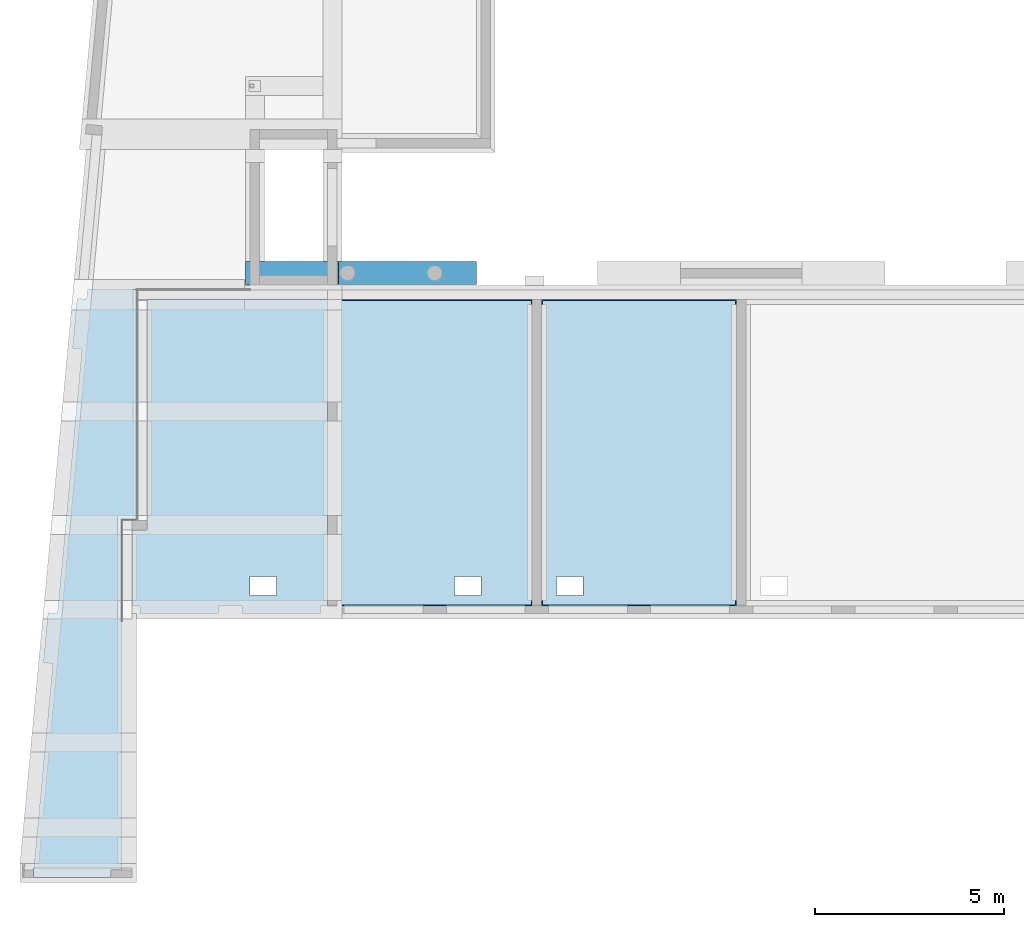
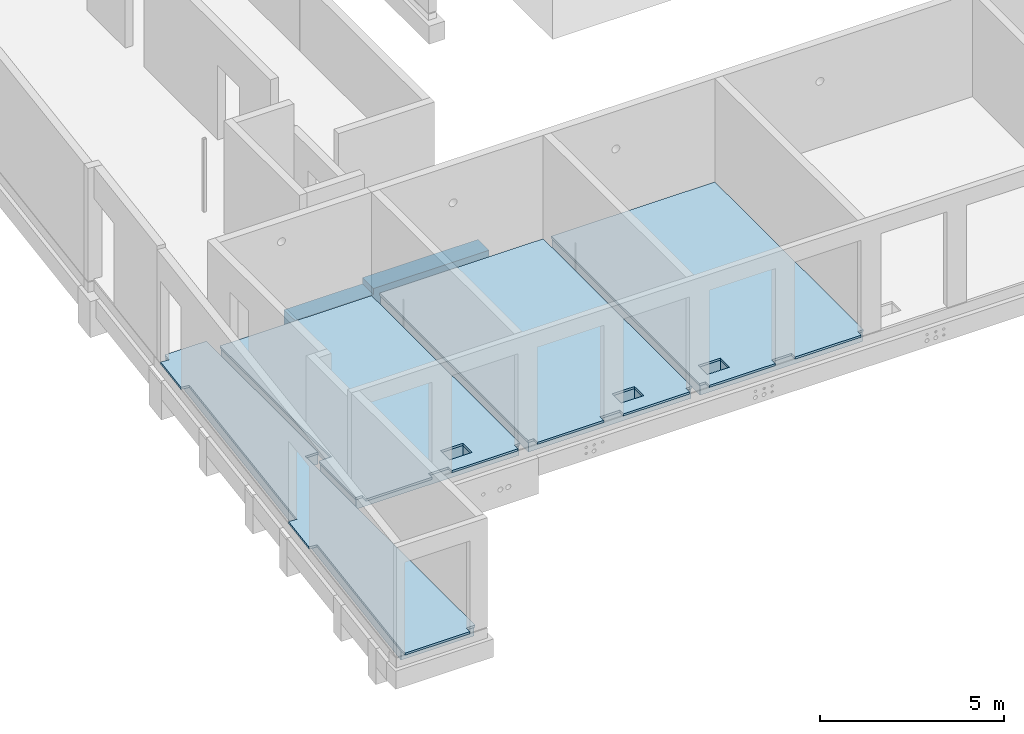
# One storey, part 20 of 60: 9 slabs, 51 openings.
"""IFC2X3 building model written with IfcOpenShell, lengths in millimetres."""

from ifc_helpers import new_model, entity, si_unit, converted_unit, derived_unit, direction, frame, frame_2d, origin, origin_2d_with_axis, place, context, subcontext, project, spatial, polyline, circle_curve, parameter, trimmed, segment, composite_curve, rectangle, outline, extrude, material, layer, layer_set, layer_usage, element, save


model = new_model("IFC2X3")

# Units and contexts
model_context = context("Model", 3, precision=0.01, world=origin(), true_north=direction((6.12303176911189e-17, 1.0)))
body_context = subcontext(model_context, "Body", "Model", "MODEL_VIEW")
ifc_project = project(units=[si_unit("LENGTHUNIT", "METRE", prefix="MILLI"), si_unit("AREAUNIT", "SQUARE_METRE"), si_unit("VOLUMEUNIT", "CUBIC_METRE"), converted_unit("PLANEANGLEUNIT", "DEGREE", entity("IfcRatioMeasure", 0.0174532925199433), si_unit("PLANEANGLEUNIT", "RADIAN"), dimensions=[0, 0, 0, 0, 0, 0, 0]), si_unit("MASSUNIT", "GRAM", prefix="KILO"), derived_unit("MASSDENSITYUNIT", [(si_unit("MASSUNIT", "GRAM", prefix="KILO"), 1), (si_unit("LENGTHUNIT", "METRE"), -3)]), si_unit("TIMEUNIT", "SECOND"), si_unit("FREQUENCYUNIT", "HERTZ"), si_unit("THERMODYNAMICTEMPERATUREUNIT", "DEGREE_CELSIUS"), derived_unit("THERMALTRANSMITTANCEUNIT", [(si_unit("MASSUNIT", "GRAM", prefix="KILO"), 1), (si_unit("THERMODYNAMICTEMPERATUREUNIT", "KELVIN"), -1), (si_unit("TIMEUNIT", "SECOND"), -3)]), derived_unit("VOLUMETRICFLOWRATEUNIT", [(si_unit("LENGTHUNIT", "METRE"), 3), (si_unit("TIMEUNIT", "SECOND"), -1)]), si_unit("ELECTRICCURRENTUNIT", "AMPERE"), si_unit("ELECTRICVOLTAGEUNIT", "VOLT"), si_unit("POWERUNIT", "WATT"), si_unit("FORCEUNIT", "NEWTON", prefix="KILO"), si_unit("ILLUMINANCEUNIT", "LUX"), si_unit("LUMINOUSFLUXUNIT", "LUMEN"), si_unit("LUMINOUSINTENSITYUNIT", "CANDELA"), derived_unit("USERDEFINED", [(si_unit("MASSUNIT", "GRAM", prefix="KILO"), -1), (si_unit("LENGTHUNIT", "METRE"), -2), (si_unit("TIMEUNIT", "SECOND"), 3), (si_unit("LUMINOUSFLUXUNIT", "LUMEN"), 1)]), derived_unit("LINEARVELOCITYUNIT", [(si_unit("LENGTHUNIT", "METRE"), 1), (si_unit("TIMEUNIT", "SECOND"), -1)]), si_unit("PRESSUREUNIT", "PASCAL"), derived_unit("USERDEFINED", [(si_unit("LENGTHUNIT", "METRE"), -2), (si_unit("MASSUNIT", "GRAM", prefix="KILO"), 1), (si_unit("TIMEUNIT", "SECOND"), -2)])], contexts=[model_context])

# Site, building, storey
site_placement = place(None, origin())
site = spatial("IfcSite", under=ifc_project, at=site_placement, Name="Default", CompositionType="ELEMENT")
building_placement = place(site_placement, origin())
building = spatial("IfcBuilding", under=site, at=building_placement, Name="niet gebruiken", CompositionType="ELEMENT")
storey_placement = place(building_placement, origin())
storey = spatial("IfcBuildingStorey", under=building, at=storey_placement, Name="00 begane grond", CompositionType="ELEMENT", Elevation=0.0)

# Slab, openings
ifc_material_1 = material(Name="NLRS_f2_beton ihwg")
ifc_layer_1 = layer(ifc_material_1, 70.0)
ifc_layer_set_1 = layer_set([ifc_layer_1], Name="Floor:NLRS_23.21_FL_druklaag d=70_gen")
ifc_layer_usage_1 = layer_usage(ifc_layer_set_1, "AXIS3", "POSITIVE", 0.0)
slab_1_placement = place(storey_placement, frame((2800.0, 200.0, -160.0)))
slab_1 = element("IfcSlab", 1, at=slab_1_placement, inside=storey, material=ifc_layer_usage_1, Name="Floor:NLRS_23.21_FL_druklaag d=70_gen", ObjectType="Floor:NLRS_23.21_FL_druklaag d=70_gen", PredefinedType="FLOOR", context=body_context, shape_type="SweptSolid", body=[
    extrude(outline(polyline([(47647.5000000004, -4148.0), (49727.5000000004, -4148.0), (49727.5000000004, -3948.0), (49937.5, -3948.0), (49937.5, -1938.0), (49537.5000000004, -1938.0), (49537.5000000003, 4148.0), (44762.5000000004, 4148.0), (44762.5000000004, -3948.0), (44947.5000000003, -3948.0), (44947.5000000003, -4148.0), (47027.5000000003, -4148.0), (47027.5000000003, -3948.0), (47647.5000000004, -3948.0), (47647.5000000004, -4148.0)])), frame((49937.5, 4148.0, 70.0), z_axis=(0.0, 0.0, -1.0), x_axis=(-1.0, 0.0, 0.0)), (0.0, 0.0, 1.0), 70.0),
])
placement_1 = place(slab_1_placement, origin())
element("IfcOpeningElement", 2, at=placement_1, cuts=slab_1, ObjectType="Opening", context=body_context, shape_type="SweptSolid", body=[
    extrude(rectangle(XDim=699.999999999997, YDim=500.000000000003, at=origin_2d_with_axis()), frame((89870.0, 725.0, -380.0), z_axis=(0.0, 0.0, 1.0), x_axis=(-1.0, 0.0, 0.0)), (0.0, 0.0, 1.0), 450.0),
])
placement_2 = place(slab_1_placement, origin())
element("IfcOpeningElement", 3, at=placement_2, cuts=slab_1, ObjectType="Opening", context=body_context, shape_type="SweptSolid", body=[
    extrude(rectangle(XDim=699.999999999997, YDim=500.000000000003, at=origin_2d_with_axis()), frame((92570.0, 725.0, -380.0), z_axis=(0.0, 0.0, 1.0), x_axis=(-1.0, 0.0, 0.0)), (0.0, 0.0, 1.0), 450.0),
])
placement_3 = place(slab_1_placement, origin())
element("IfcOpeningElement", 4, at=placement_3, cuts=slab_1, ObjectType="Opening", context=body_context, shape_type="SweptSolid", body=[
    extrude(rectangle(XDim=699.999999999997, YDim=500.000000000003, at=origin_2d_with_axis()), frame((84470.0, 725.0, -380.0), z_axis=(0.0, 0.0, 1.0), x_axis=(-1.0, 0.0, 0.0)), (0.0, 0.0, 1.0), 450.0),
])
placement_4 = place(slab_1_placement, origin())
element("IfcOpeningElement", 5, at=placement_4, cuts=slab_1, ObjectType="Opening", context=body_context, shape_type="SweptSolid", body=[
    extrude(rectangle(XDim=700.000000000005, YDim=500.000000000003, at=origin_2d_with_axis()), frame((70970.0, 725.0, -380.0), z_axis=(0.0, 0.0, 1.0), x_axis=(-1.0, 0.0, 0.0)), (0.0, 0.0, 1.0), 450.0),
])
placement_5 = place(slab_1_placement, origin())
element("IfcOpeningElement", 6, at=placement_5, cuts=slab_1, ObjectType="Opening", context=body_context, shape_type="SweptSolid", body=[
    extrude(rectangle(XDim=700.000000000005, YDim=500.000000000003, at=origin_2d_with_axis()), frame((65570.0, 725.0, -380.0), z_axis=(0.0, 0.0, 1.0), x_axis=(-1.0, 0.0, 0.0)), (0.0, 0.0, 1.0), 450.0),
])
placement_6 = place(slab_1_placement, origin())
element("IfcOpeningElement", 7, at=placement_6, cuts=slab_1, ObjectType="Opening", context=body_context, shape_type="SweptSolid", body=[
    extrude(rectangle(XDim=700.000000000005, YDim=500.000000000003, at=origin_2d_with_axis()), frame((62870.0, 725.0, -380.0), z_axis=(0.0, 0.0, 1.0), x_axis=(-1.0, 0.0, 0.0)), (0.0, 0.0, 1.0), 450.0),
])
placement_7 = place(slab_1_placement, origin())
element("IfcOpeningElement", 8, at=placement_7, cuts=slab_1, ObjectType="Opening", context=body_context, shape_type="SweptSolid", body=[
    extrude(rectangle(XDim=700.000000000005, YDim=500.000000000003, at=origin_2d_with_axis()), frame((57470.0, 725.0, -380.0), z_axis=(0.0, 0.0, 1.0), x_axis=(-1.0, 0.0, 0.0)), (0.0, 0.0, 1.0), 450.0),
])
placement_8 = place(slab_1_placement, origin())
element("IfcOpeningElement", 9, at=placement_8, cuts=slab_1, ObjectType="Opening", context=body_context, shape_type="SweptSolid", body=[
    extrude(rectangle(XDim=700.000000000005, YDim=500.000000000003, at=origin_2d_with_axis()), frame((43970.0, 725.0, -380.0), z_axis=(0.0, 0.0, 1.0), x_axis=(-1.0, 0.0, 0.0)), (0.0, 0.0, 1.0), 450.0),
])
placement_9 = place(slab_1_placement, origin())
element("IfcOpeningElement", 10, at=placement_9, cuts=slab_1, ObjectType="Opening", context=body_context, shape_type="SweptSolid", body=[
    extrude(rectangle(XDim=700.000000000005, YDim=500.000000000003, at=origin_2d_with_axis()), frame((38570.0, 725.0, -380.0), z_axis=(0.0, 0.0, 1.0), x_axis=(-1.0, 0.0, 0.0)), (0.0, 0.0, 1.0), 450.0),
])
placement_10 = place(slab_1_placement, origin())
element("IfcOpeningElement", 11, at=placement_10, cuts=slab_1, ObjectType="Opening", context=body_context, shape_type="SweptSolid", body=[
    extrude(rectangle(XDim=700.000000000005, YDim=500.000000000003, at=origin_2d_with_axis()), frame((35870.0, 725.0, -380.0), z_axis=(0.0, 0.0, 1.0), x_axis=(-1.0, 0.0, 0.0)), (0.0, 0.0, 1.0), 450.0),
])
placement_11 = place(slab_1_placement, origin())
element("IfcOpeningElement", 12, at=placement_11, cuts=slab_1, ObjectType="Opening", context=body_context, shape_type="SweptSolid", body=[
    extrude(rectangle(XDim=700.000000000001, YDim=500.000000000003, at=origin_2d_with_axis()), frame((30470.0, 725.0, -380.0), z_axis=(0.0, 0.0, 1.0), x_axis=(-1.0, 0.0, 0.0)), (0.0, 0.0, 1.0), 450.0),
])
placement_12 = place(slab_1_placement, origin())
element("IfcOpeningElement", 13, at=placement_12, cuts=slab_1, ObjectType="Opening", context=body_context, shape_type="SweptSolid", body=[
    extrude(rectangle(XDim=700.000000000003, YDim=500.000000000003, at=origin_2d_with_axis()), frame((16970.0, 725.0, -380.0), z_axis=(0.0, 0.0, 1.0), x_axis=(-1.0, 0.0, 0.0)), (0.0, 0.0, 1.0), 450.0),
])
placement_13 = place(slab_1_placement, origin())
element("IfcOpeningElement", 14, at=placement_13, cuts=slab_1, ObjectType="Opening", context=body_context, shape_type="SweptSolid", body=[
    extrude(rectangle(XDim=700.000000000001, YDim=500.000000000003, at=origin_2d_with_axis()), frame((11570.0, 725.0, -380.0), z_axis=(0.0, 0.0, 1.0), x_axis=(-1.0, 0.0, 0.0)), (0.0, 0.0, 1.0), 450.0),
])
placement_14 = place(slab_1_placement, origin())
element("IfcOpeningElement", 15, at=placement_14, cuts=slab_1, ObjectType="Opening", context=body_context, shape_type="SweptSolid", body=[
    extrude(rectangle(XDim=700.000000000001, YDim=500.000000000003, at=origin_2d_with_axis()), frame((8870.0, 725.0, -380.0), z_axis=(0.0, 0.0, 1.0), x_axis=(-1.0, 0.0, 0.0)), (0.0, 0.0, 1.0), 450.0),
])
placement_15 = place(slab_1_placement, origin())
element("IfcOpeningElement", 16, at=placement_15, cuts=slab_1, ObjectType="Opening", context=body_context, shape_type="SweptSolid", body=[
    extrude(rectangle(XDim=700.000000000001, YDim=500.000000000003, at=origin_2d_with_axis()), frame((3470.0, 725.0, -380.0), z_axis=(0.0, 0.0, 1.0), x_axis=(-1.0, 0.0, 0.0)), (0.0, 0.0, 1.0), 450.0),
])
placement_16 = place(slab_1_placement, origin())
element("IfcOpeningElement", 17, at=placement_16, cuts=slab_1, ObjectType="Opening", context=body_context, shape_type="SweptSolid", body=[
    extrude(rectangle(XDim=699.999999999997, YDim=500.000000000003, at=origin_2d_with_axis()), frame((99205.001708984, 4120.00003051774, -380.0), z_axis=(0.0, 0.0, 1.0), x_axis=(-1.0, 0.0, 0.0)), (0.0, 0.0, 1.0), 450.0),
])

slab_2_placement = place(storey_placement, frame((2800.0, 200.0, -160.0)))
slab_2 = element("IfcSlab", 18, at=slab_2_placement, inside=storey, material=ifc_layer_usage_1, Name="Floor:NLRS_23.21_FL_druklaag d=70_gen:3", ObjectType="Floor:NLRS_23.21_FL_druklaag d=70_gen", PredefinedType="FLOOR", context=body_context, shape_type="SweptSolid", body=[
    extrude(outline(polyline([(44512.5000000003, 4148.0), (39362.5000000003, 4148.0), (39362.5000000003, -3948.0), (39547.5000000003, -3948.0), (39547.5000000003, -4148.0), (41627.5000000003, -4148.0), (41627.5000000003, -3948.0), (42247.5000000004, -3948.0), (42247.5000000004, -4148.0), (44327.5000000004, -4148.0), (44327.5000000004, -3948.0), (44512.5000000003, -3948.0), (44512.5000000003, 4148.0)])), frame((49937.5, 4148.0, 70.0), z_axis=(0.0, 0.0, -1.0), x_axis=(-1.0, 0.0, 0.0)), (0.0, 0.0, 1.0), 70.0),
])
element("IfcOpeningElement", 19, at=placement_1, cuts=slab_2, ObjectType="Opening", context=body_context, shape_type="SweptSolid", body=[
    extrude(rectangle(XDim=699.999999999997, YDim=500.000000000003, at=origin_2d_with_axis()), frame((89870.0, 725.0, -380.0), z_axis=(0.0, 0.0, 1.0), x_axis=(-1.0, 0.0, 0.0)), (0.0, 0.0, 1.0), 450.0),
])
element("IfcOpeningElement", 20, at=placement_2, cuts=slab_2, ObjectType="Opening", context=body_context, shape_type="SweptSolid", body=[
    extrude(rectangle(XDim=699.999999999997, YDim=500.000000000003, at=origin_2d_with_axis()), frame((92570.0, 725.0, -380.0), z_axis=(0.0, 0.0, 1.0), x_axis=(-1.0, 0.0, 0.0)), (0.0, 0.0, 1.0), 450.0),
])
element("IfcOpeningElement", 21, at=placement_3, cuts=slab_2, ObjectType="Opening", context=body_context, shape_type="SweptSolid", body=[
    extrude(rectangle(XDim=699.999999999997, YDim=500.000000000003, at=origin_2d_with_axis()), frame((84470.0, 725.0, -380.0), z_axis=(0.0, 0.0, 1.0), x_axis=(-1.0, 0.0, 0.0)), (0.0, 0.0, 1.0), 450.0),
])
element("IfcOpeningElement", 22, at=placement_4, cuts=slab_2, ObjectType="Opening", context=body_context, shape_type="SweptSolid", body=[
    extrude(rectangle(XDim=700.000000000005, YDim=500.000000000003, at=origin_2d_with_axis()), frame((70970.0, 725.0, -380.0), z_axis=(0.0, 0.0, 1.0), x_axis=(-1.0, 0.0, 0.0)), (0.0, 0.0, 1.0), 450.0),
])
element("IfcOpeningElement", 23, at=placement_5, cuts=slab_2, ObjectType="Opening", context=body_context, shape_type="SweptSolid", body=[
    extrude(rectangle(XDim=700.000000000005, YDim=500.000000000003, at=origin_2d_with_axis()), frame((65570.0, 725.0, -380.0), z_axis=(0.0, 0.0, 1.0), x_axis=(-1.0, 0.0, 0.0)), (0.0, 0.0, 1.0), 450.0),
])
element("IfcOpeningElement", 24, at=placement_6, cuts=slab_2, ObjectType="Opening", context=body_context, shape_type="SweptSolid", body=[
    extrude(rectangle(XDim=700.000000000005, YDim=500.000000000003, at=origin_2d_with_axis()), frame((62870.0, 725.0, -380.0), z_axis=(0.0, 0.0, 1.0), x_axis=(-1.0, 0.0, 0.0)), (0.0, 0.0, 1.0), 450.0),
])
element("IfcOpeningElement", 25, at=placement_7, cuts=slab_2, ObjectType="Opening", context=body_context, shape_type="SweptSolid", body=[
    extrude(rectangle(XDim=700.000000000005, YDim=500.000000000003, at=origin_2d_with_axis()), frame((57470.0, 725.0, -380.0), z_axis=(0.0, 0.0, 1.0), x_axis=(-1.0, 0.0, 0.0)), (0.0, 0.0, 1.0), 450.0),
])
element("IfcOpeningElement", 26, at=placement_8, cuts=slab_2, ObjectType="Opening", context=body_context, shape_type="SweptSolid", body=[
    extrude(rectangle(XDim=700.000000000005, YDim=500.000000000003, at=origin_2d_with_axis()), frame((43970.0, 725.0, -380.0), z_axis=(0.0, 0.0, 1.0), x_axis=(-1.0, 0.0, 0.0)), (0.0, 0.0, 1.0), 450.0),
])
element("IfcOpeningElement", 27, at=placement_9, cuts=slab_2, ObjectType="Opening", context=body_context, shape_type="SweptSolid", body=[
    extrude(rectangle(XDim=700.000000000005, YDim=500.000000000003, at=origin_2d_with_axis()), frame((38570.0, 725.0, -380.0), z_axis=(0.0, 0.0, 1.0), x_axis=(-1.0, 0.0, 0.0)), (0.0, 0.0, 1.0), 450.0),
])
element("IfcOpeningElement", 28, at=placement_10, cuts=slab_2, ObjectType="Opening", context=body_context, shape_type="SweptSolid", body=[
    extrude(rectangle(XDim=700.000000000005, YDim=500.000000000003, at=origin_2d_with_axis()), frame((35870.0, 725.0, -380.0), z_axis=(0.0, 0.0, 1.0), x_axis=(-1.0, 0.0, 0.0)), (0.0, 0.0, 1.0), 450.0),
])
element("IfcOpeningElement", 29, at=placement_11, cuts=slab_2, ObjectType="Opening", context=body_context, shape_type="SweptSolid", body=[
    extrude(rectangle(XDim=700.000000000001, YDim=500.000000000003, at=origin_2d_with_axis()), frame((30470.0, 725.0, -380.0), z_axis=(0.0, 0.0, 1.0), x_axis=(-1.0, 0.0, 0.0)), (0.0, 0.0, 1.0), 450.0),
])
element("IfcOpeningElement", 30, at=placement_12, cuts=slab_2, ObjectType="Opening", context=body_context, shape_type="SweptSolid", body=[
    extrude(rectangle(XDim=700.000000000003, YDim=500.000000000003, at=origin_2d_with_axis()), frame((16970.0, 725.0, -380.0), z_axis=(0.0, 0.0, 1.0), x_axis=(-1.0, 0.0, 0.0)), (0.0, 0.0, 1.0), 450.0),
])
element("IfcOpeningElement", 31, at=placement_13, cuts=slab_2, ObjectType="Opening", context=body_context, shape_type="SweptSolid", body=[
    extrude(rectangle(XDim=700.000000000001, YDim=500.000000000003, at=origin_2d_with_axis()), frame((11570.0, 725.0, -380.0), z_axis=(0.0, 0.0, 1.0), x_axis=(-1.0, 0.0, 0.0)), (0.0, 0.0, 1.0), 450.0),
])
element("IfcOpeningElement", 32, at=placement_14, cuts=slab_2, ObjectType="Opening", context=body_context, shape_type="SweptSolid", body=[
    extrude(rectangle(XDim=700.000000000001, YDim=500.000000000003, at=origin_2d_with_axis()), frame((8870.0, 725.0, -380.0), z_axis=(0.0, 0.0, 1.0), x_axis=(-1.0, 0.0, 0.0)), (0.0, 0.0, 1.0), 450.0),
])
element("IfcOpeningElement", 33, at=placement_15, cuts=slab_2, ObjectType="Opening", context=body_context, shape_type="SweptSolid", body=[
    extrude(rectangle(XDim=700.000000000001, YDim=500.000000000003, at=origin_2d_with_axis()), frame((3470.0, 725.0, -380.0), z_axis=(0.0, 0.0, 1.0), x_axis=(-1.0, 0.0, 0.0)), (0.0, 0.0, 1.0), 450.0),
])
element("IfcOpeningElement", 34, at=placement_16, cuts=slab_2, ObjectType="Opening", context=body_context, shape_type="SweptSolid", body=[
    extrude(rectangle(XDim=699.999999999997, YDim=500.000000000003, at=origin_2d_with_axis()), frame((99205.001708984, 4120.00003051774, -380.0), z_axis=(0.0, 0.0, 1.0), x_axis=(-1.0, 0.0, 0.0)), (0.0, 0.0, 1.0), 450.0),
])

slab_3_placement = place(storey_placement, frame((2800.0, 200.0, -160.0)))
slab_3 = element("IfcSlab", 35, at=slab_3_placement, inside=storey, material=ifc_layer_usage_1, Name="Floor:NLRS_23.21_FL_druklaag d=70_gen:4", ObjectType="Floor:NLRS_23.21_FL_druklaag d=70_gen", PredefinedType="FLOOR", context=body_context, shape_type="SweptSolid", body=[
    extrude(outline(polyline([(38927.5000000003, -3948.0), (39112.5000000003, -3948.0), (39112.5000000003, 4148.0), (33962.5000000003, 4148.0), (33962.5000000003, -3948.0), (34147.5000000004, -3948.0), (34147.5000000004, -4148.0), (36227.5000000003, -4148.0), (36227.5000000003, -3948.0), (36847.5000000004, -3948.0), (36847.5000000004, -4148.0), (38927.5000000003, -4148.0), (38927.5000000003, -3948.0)])), frame((49937.5, 4148.0, 70.0), z_axis=(0.0, 0.0, -1.0), x_axis=(-1.0, 0.0, 0.0)), (0.0, 0.0, 1.0), 70.0),
])
element("IfcOpeningElement", 36, at=placement_1, cuts=slab_3, ObjectType="Opening", context=body_context, shape_type="SweptSolid", body=[
    extrude(rectangle(XDim=699.999999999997, YDim=500.000000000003, at=origin_2d_with_axis()), frame((89870.0, 725.0, -380.0), z_axis=(0.0, 0.0, 1.0), x_axis=(-1.0, 0.0, 0.0)), (0.0, 0.0, 1.0), 450.0),
])
element("IfcOpeningElement", 37, at=placement_2, cuts=slab_3, ObjectType="Opening", context=body_context, shape_type="SweptSolid", body=[
    extrude(rectangle(XDim=699.999999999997, YDim=500.000000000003, at=origin_2d_with_axis()), frame((92570.0, 725.0, -380.0), z_axis=(0.0, 0.0, 1.0), x_axis=(-1.0, 0.0, 0.0)), (0.0, 0.0, 1.0), 450.0),
])
element("IfcOpeningElement", 38, at=placement_3, cuts=slab_3, ObjectType="Opening", context=body_context, shape_type="SweptSolid", body=[
    extrude(rectangle(XDim=699.999999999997, YDim=500.000000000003, at=origin_2d_with_axis()), frame((84470.0, 725.0, -380.0), z_axis=(0.0, 0.0, 1.0), x_axis=(-1.0, 0.0, 0.0)), (0.0, 0.0, 1.0), 450.0),
])
element("IfcOpeningElement", 39, at=placement_4, cuts=slab_3, ObjectType="Opening", context=body_context, shape_type="SweptSolid", body=[
    extrude(rectangle(XDim=700.000000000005, YDim=500.000000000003, at=origin_2d_with_axis()), frame((70970.0, 725.0, -380.0), z_axis=(0.0, 0.0, 1.0), x_axis=(-1.0, 0.0, 0.0)), (0.0, 0.0, 1.0), 450.0),
])
element("IfcOpeningElement", 40, at=placement_5, cuts=slab_3, ObjectType="Opening", context=body_context, shape_type="SweptSolid", body=[
    extrude(rectangle(XDim=700.000000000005, YDim=500.000000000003, at=origin_2d_with_axis()), frame((65570.0, 725.0, -380.0), z_axis=(0.0, 0.0, 1.0), x_axis=(-1.0, 0.0, 0.0)), (0.0, 0.0, 1.0), 450.0),
])
element("IfcOpeningElement", 41, at=placement_6, cuts=slab_3, ObjectType="Opening", context=body_context, shape_type="SweptSolid", body=[
    extrude(rectangle(XDim=700.000000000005, YDim=500.000000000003, at=origin_2d_with_axis()), frame((62870.0, 725.0, -380.0), z_axis=(0.0, 0.0, 1.0), x_axis=(-1.0, 0.0, 0.0)), (0.0, 0.0, 1.0), 450.0),
])
element("IfcOpeningElement", 42, at=placement_7, cuts=slab_3, ObjectType="Opening", context=body_context, shape_type="SweptSolid", body=[
    extrude(rectangle(XDim=700.000000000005, YDim=500.000000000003, at=origin_2d_with_axis()), frame((57470.0, 725.0, -380.0), z_axis=(0.0, 0.0, 1.0), x_axis=(-1.0, 0.0, 0.0)), (0.0, 0.0, 1.0), 450.0),
])
element("IfcOpeningElement", 43, at=placement_8, cuts=slab_3, ObjectType="Opening", context=body_context, shape_type="SweptSolid", body=[
    extrude(rectangle(XDim=700.000000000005, YDim=500.000000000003, at=origin_2d_with_axis()), frame((43970.0, 725.0, -380.0), z_axis=(0.0, 0.0, 1.0), x_axis=(-1.0, 0.0, 0.0)), (0.0, 0.0, 1.0), 450.0),
])
element("IfcOpeningElement", 44, at=placement_9, cuts=slab_3, ObjectType="Opening", context=body_context, shape_type="SweptSolid", body=[
    extrude(rectangle(XDim=700.000000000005, YDim=500.000000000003, at=origin_2d_with_axis()), frame((38570.0, 725.0, -380.0), z_axis=(0.0, 0.0, 1.0), x_axis=(-1.0, 0.0, 0.0)), (0.0, 0.0, 1.0), 450.0),
])
element("IfcOpeningElement", 45, at=placement_10, cuts=slab_3, ObjectType="Opening", context=body_context, shape_type="SweptSolid", body=[
    extrude(rectangle(XDim=700.000000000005, YDim=500.000000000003, at=origin_2d_with_axis()), frame((35870.0, 725.0, -380.0), z_axis=(0.0, 0.0, 1.0), x_axis=(-1.0, 0.0, 0.0)), (0.0, 0.0, 1.0), 450.0),
])
element("IfcOpeningElement", 46, at=placement_11, cuts=slab_3, ObjectType="Opening", context=body_context, shape_type="SweptSolid", body=[
    extrude(rectangle(XDim=700.000000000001, YDim=500.000000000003, at=origin_2d_with_axis()), frame((30470.0, 725.0, -380.0), z_axis=(0.0, 0.0, 1.0), x_axis=(-1.0, 0.0, 0.0)), (0.0, 0.0, 1.0), 450.0),
])
element("IfcOpeningElement", 47, at=placement_12, cuts=slab_3, ObjectType="Opening", context=body_context, shape_type="SweptSolid", body=[
    extrude(rectangle(XDim=700.000000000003, YDim=500.000000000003, at=origin_2d_with_axis()), frame((16970.0, 725.0, -380.0), z_axis=(0.0, 0.0, 1.0), x_axis=(-1.0, 0.0, 0.0)), (0.0, 0.0, 1.0), 450.0),
])
element("IfcOpeningElement", 48, at=placement_13, cuts=slab_3, ObjectType="Opening", context=body_context, shape_type="SweptSolid", body=[
    extrude(rectangle(XDim=700.000000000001, YDim=500.000000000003, at=origin_2d_with_axis()), frame((11570.0, 725.0, -380.0), z_axis=(0.0, 0.0, 1.0), x_axis=(-1.0, 0.0, 0.0)), (0.0, 0.0, 1.0), 450.0),
])
element("IfcOpeningElement", 49, at=placement_14, cuts=slab_3, ObjectType="Opening", context=body_context, shape_type="SweptSolid", body=[
    extrude(rectangle(XDim=700.000000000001, YDim=500.000000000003, at=origin_2d_with_axis()), frame((8870.0, 725.0, -380.0), z_axis=(0.0, 0.0, 1.0), x_axis=(-1.0, 0.0, 0.0)), (0.0, 0.0, 1.0), 450.0),
])
element("IfcOpeningElement", 50, at=placement_15, cuts=slab_3, ObjectType="Opening", context=body_context, shape_type="SweptSolid", body=[
    extrude(rectangle(XDim=700.000000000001, YDim=500.000000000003, at=origin_2d_with_axis()), frame((3470.0, 725.0, -380.0), z_axis=(0.0, 0.0, 1.0), x_axis=(-1.0, 0.0, 0.0)), (0.0, 0.0, 1.0), 450.0),
])
element("IfcOpeningElement", 51, at=placement_16, cuts=slab_3, ObjectType="Opening", context=body_context, shape_type="SweptSolid", body=[
    extrude(rectangle(XDim=699.999999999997, YDim=500.000000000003, at=origin_2d_with_axis()), frame((99205.001708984, 4120.00003051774, -380.0), z_axis=(0.0, 0.0, 1.0), x_axis=(-1.0, 0.0, 0.0)), (0.0, 0.0, 1.0), 450.0),
])

# Slab, opening
ifc_material_2 = material(Name="NLRS_f2_beton prefab")
ifc_layer_2 = layer(ifc_material_2, 200.0)
ifc_material_3 = material(Name="NLRS_n7_isolatie EPS")
ifc_layer_3 = layer(ifc_material_3, 132.0)
ifc_layer_set_2 = layer_set([ifc_layer_2, ifc_layer_3], Name="Floor:NLRS_23.21_FL_geisoleerde kanaalplaat d=200 rc 3.5 iso132_gen")
ifc_layer_usage_2 = layer_usage(ifc_layer_set_2, "AXIS3", "POSITIVE", 0.0)
slab_4_placement = place(storey_placement, frame((8245.0, 420.0, -492.0)))
slab_4 = element("IfcSlab", 52, at=slab_4_placement, inside=storey, material=ifc_layer_usage_2, Name="Floor:NLRS_23.21_FL_geisoleerde kanaalplaat d=200 rc 3.5 iso132_gen", ObjectType="Floor:NLRS_23.21_FL_geisoleerde kanaalplaat d=200 rc 3.5 iso132_gen", PredefinedType="FLOOR", context=body_context, shape_type="SweptSolid", body=[
    extrude(rectangle(XDim=8056.00000000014, YDim=5109.99999999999, at=frame_2d((0.0, 0.0), x_axis=(0.0, -1.0))), frame((2555.0, 4028.0, 332.0), z_axis=(0.0, 0.0, -1.0), x_axis=(-1.0, 0.0, 0.0)), (0.0, 0.0, 1.0), 332.0),
])
opening_49_placement = place(slab_4_placement, origin())
element("IfcOpeningElement", 53, at=opening_49_placement, cuts=slab_4, ObjectType="Opening", context=body_context, shape_type="SweptSolid", body=[
    extrude(rectangle(XDim=700.000000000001, YDim=500.000000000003, at=origin_2d_with_axis()), frame((3425.0, 505.0, -48.0), z_axis=(0.0, 0.0, 1.0), x_axis=(-1.0, 0.0, 0.0)), (0.0, 0.0, 1.0), 450.0),
])

ifc_layer_usage_3 = layer_usage(ifc_layer_set_2, "AXIS3", "POSITIVE", 0.0)
slab_5_placement = place(storey_placement, frame((13645.0, 420.0, -492.0)))
slab_5 = element("IfcSlab", 54, at=slab_5_placement, inside=storey, material=ifc_layer_usage_3, Name="Floor:NLRS_23.21_FL_geisoleerde kanaalplaat d=200 rc 3.5 iso132_gen", ObjectType="Floor:NLRS_23.21_FL_geisoleerde kanaalplaat d=200 rc 3.5 iso132_gen", PredefinedType="FLOOR", context=body_context, shape_type="SweptSolid", body=[
    extrude(rectangle(XDim=8056.00000000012, YDim=5109.99999999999, at=frame_2d((0.0, 0.0), x_axis=(0.0, -1.0))), frame((2555.0, 4028.0, 332.0), z_axis=(0.0, 0.0, -1.0), x_axis=(-1.0, 0.0, 0.0)), (0.0, 0.0, 1.0), 332.0),
])
opening_50_placement = place(slab_5_placement, origin())
element("IfcOpeningElement", 55, at=opening_50_placement, cuts=slab_5, ObjectType="Opening", context=body_context, shape_type="SweptSolid", body=[
    extrude(rectangle(XDim=700.000000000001, YDim=500.000000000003, at=origin_2d_with_axis()), frame((725.0, 505.0, -48.0), z_axis=(0.0, 0.0, 1.0), x_axis=(-1.0, 0.0, 0.0)), (0.0, 0.0, 1.0), 450.0),
])

ifc_layer_usage_4 = layer_usage(ifc_layer_set_2, "AXIS3", "POSITIVE", 0.0)
slab_6_placement = place(storey_placement, frame((2820.0, 420.0, -492.0)))
slab_6 = element("IfcSlab", 56, at=slab_6_placement, inside=storey, material=ifc_layer_usage_4, Name="Floor:NLRS_23.21_FL_geisoleerde kanaalplaat d=200 rc 3.5 iso132_gen", ObjectType="Floor:NLRS_23.21_FL_geisoleerde kanaalplaat d=200 rc 3.5 iso132_gen", PredefinedType="FLOOR", context=body_context, shape_type="SweptSolid", body=[
    extrude(outline(polyline([(-2567.49999999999, 4028.0), (-2567.49999999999, -4028.0), (2567.49999999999, -4028.0), (2567.49999999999, -2058.0), (2167.49999999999, -2058.0), (2167.49999999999, 4028.0), (-2567.49999999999, 4028.0)])), frame((2567.49999999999, 4028.0, 332.0), z_axis=(0.0, 0.0, -1.0), x_axis=(-1.0, 0.0, 0.0)), (0.0, 0.0, 1.0), 332.0),
])
opening_51_placement = place(slab_6_placement, origin())
element("IfcOpeningElement", 57, at=opening_51_placement, cuts=slab_6, ObjectType="Opening", context=body_context, shape_type="SweptSolid", body=[
    extrude(rectangle(XDim=700.000000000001, YDim=500.000000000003, at=origin_2d_with_axis()), frame((3450.0, 505.0, -48.0), z_axis=(0.0, 0.0, 1.0), x_axis=(-1.0, 0.0, 0.0)), (0.0, 0.0, 1.0), 450.0),
])

# Slabs
ifc_layer_usage_5 = layer_usage(ifc_layer_set_2, "AXIS3", "POSITIVE", 0.0)
slab_7_placement = place(storey_placement, origin())
element("IfcSlab", 58, at=slab_7_placement, inside=storey, material=ifc_layer_usage_5, Name="Floor:NLRS_23.21_FL_geisoleerde kanaalplaat d=200 rc 3.5 iso132_gen", ObjectType="Floor:NLRS_23.21_FL_geisoleerde kanaalplaat d=200 rc 3.5 iso132_gen", PredefinedType="FLOOR", context=body_context, shape_type="SweptSolid", body=[
    extrude(outline(polyline([(-396.681231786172, -8155.3333333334), (1901.36216375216, -8155.3333333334), (485.362763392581, 7120.66666666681), (-796.681231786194, 7120.66666666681), (-796.681231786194, 1034.6666666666), (-396.68123178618, 1034.6666666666), (-396.681231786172, -8155.3333333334)])), frame((2133.31876821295, 1645.3333333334, -70.0), z_axis=(0.0, 0.0, -1.0), x_axis=(-1.0, 0.0, 0.0)), (0.0, 0.0, 1.0), 332.0),
])
ifc_layer_4 = layer(ifc_material_1, 70.0)
ifc_layer_set_3 = layer_set([ifc_layer_4], Name="Floor:NLRS_23.21_FL_druklaag d=70 - gevlinderd_gen")
ifc_layer_usage_6 = layer_usage(ifc_layer_set_3, "AXIS3", "POSITIVE", 0.0)
slab_8_placement = place(storey_placement, origin())
element("IfcSlab", 59, at=slab_8_placement, inside=storey, material=ifc_layer_usage_6, Name="Floor:NLRS_23.21_FL_druklaag d=70 - gevlinderd_gen", ObjectType="Floor:NLRS_23.21_FL_druklaag d=70 - gevlinderd_gen", PredefinedType="FLOOR", context=body_context, shape_type="SweptSolid", body=[
    extrude(outline(polyline([(-7909.42565577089, -1308.91949405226), (-7717.90962626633, -1308.91949405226), (-2253.23412360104, -802.37476801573), (-2230.15944740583, -1051.30760899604), (-905.83673339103, -928.550331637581), (-928.911409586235, -679.617490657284), (6051.16545149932, -32.6035701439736), (6074.24012769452, -281.536411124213), (7398.56284170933, -158.779133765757), (7375.48816551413, 90.1537072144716), (7636.57434422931, 114.35492955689), (7636.57434422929, 1416.48466344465), (1550.57434422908, 1416.48466344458), (1550.57434422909, 1016.48466344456), (-7709.4256557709, 1016.48466344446), (-7709.4256557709, 741.080505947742), (-7909.42565577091, 741.080505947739), (-7909.42565577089, -1308.91949405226)])), frame((1513.51533655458, 1129.4256557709, 0.0), z_axis=(0.0, 0.0, -1.0), x_axis=(0.0, 1.0, 0.0)), (0.0, 0.0, 1.0), 70.0),
])
slab_9_placement = place(storey_placement, origin())
element("IfcSlab", 60, at=slab_9_placement, inside=storey, material=ifc_material_1, Name="NLRS_16.13_SFO_LB_fundatiepoer_gen:600x6100x1200", ObjectType="NLRS_16.13_SFO_LB_fundatiepoer_gen:600x6100x1200", PredefinedType="BASESLAB", context=body_context, shape_type="SweptSolid", body=[
    extrude(outline(polyline([(-732.666666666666, -2853.33333333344), (265.333333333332, -2853.33333333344), (265.333333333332, -393.333333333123), (467.333333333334, -393.333333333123), (467.333333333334, 3246.66666666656), (-732.666666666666, 3246.66666666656), (-732.666666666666, -2853.33333333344)]), holes=[composite_curve([segment(trimmed(circle_curve(frame_2d((-82.6666666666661, -2039.63086006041), x_axis=(0.0, -1.0)), 55.0), [parameter(180.0)], [parameter(360.0)], True, "PARAMETER"), False, "CONTINUOUS"), segment(trimmed(circle_curve(frame_2d((-82.6666666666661, -2039.63086006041), x_axis=(0.0, -1.0)), 55.0), [parameter(4.07110999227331e-13)], [parameter(180.0)], True, "PARAMETER"), False, "CONTINUOUS")], self_intersect=False), composite_curve([segment(trimmed(circle_curve(frame_2d((-82.6666666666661, -1239.63086006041), x_axis=(0.0, -1.0)), 62.5), [parameter(180.0)], [parameter(360.0)], True, "PARAMETER"), False, "CONTINUOUS"), segment(trimmed(circle_curve(frame_2d((-82.6666666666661, -1239.63086006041), x_axis=(0.0, -1.0)), 62.5), [parameter(3.56222124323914e-13)], [parameter(180.0)], True, "PARAMETER"), False, "CONTINUOUS")], self_intersect=False), composite_curve([segment(trimmed(circle_curve(frame_2d((-82.6666666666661, -1539.63086006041), x_axis=(0.0, -1.0)), 62.5), [parameter(180.0)], [parameter(360.0)], True, "PARAMETER"), False, "CONTINUOUS"), segment(trimmed(circle_curve(frame_2d((-82.6666666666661, -1539.63086006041), x_axis=(0.0, -1.0)), 62.5), [parameter(3.56222124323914e-13)], [parameter(180.0)], True, "PARAMETER"), False, "CONTINUOUS")], self_intersect=False)]), frame((8653.33333333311, 8896.0, -667.333333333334), z_axis=(0.0, 1.0, 0.0), x_axis=(0.0, 0.0, 1.0)), (0.0, 0.0, 1.0), 600.0),
])

save(model, "model.ifc")
